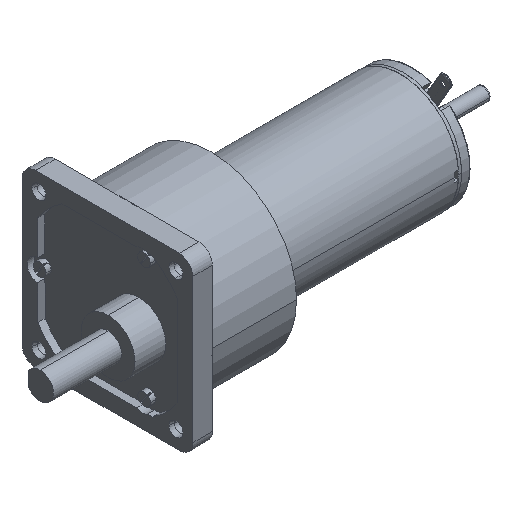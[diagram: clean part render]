
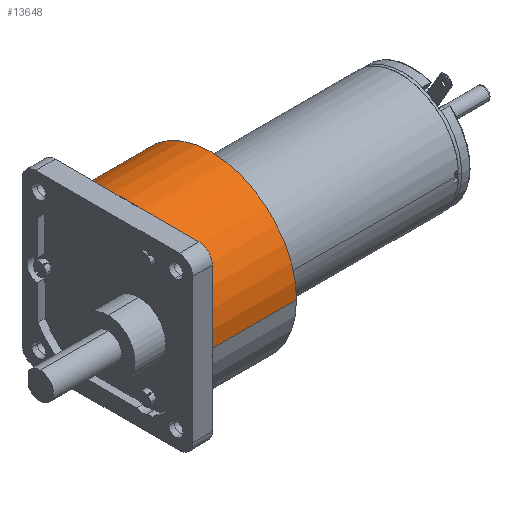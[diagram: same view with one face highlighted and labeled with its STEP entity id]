
A CAD part, isometric view. The second image highlights one B-rep face of the part: STEP entity #13648.
In plain terms, the highlighted cylindrical face has radius 19 mm (diameter 38 mm), a partial arc.
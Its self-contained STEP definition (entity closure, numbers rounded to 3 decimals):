
#113 = DIRECTION ( 'NONE',  ( 1., 0., 0. ) ) ;
#560 = ORIENTED_EDGE ( 'NONE', *, *, #8260, .F. ) ;
#575 = EDGE_LOOP ( 'NONE', ( #560, #3230, #15703, #2563, #10080 ) ) ;
#682 = DIRECTION ( 'NONE',  ( 0., 0., -1. ) ) ;
#1691 = VECTOR ( 'NONE', #12668, 1000. ) ;
#1776 = DIRECTION ( 'NONE',  ( 1., 0., 0. ) ) ;
#2563 = ORIENTED_EDGE ( 'NONE', *, *, #4088, .T. ) ;
#2774 = AXIS2_PLACEMENT_3D ( 'NONE', #8856, #2787, #10458 ) ;
#2787 = DIRECTION ( 'NONE',  ( 1., 0., 0. ) ) ;
#3059 = VERTEX_POINT ( 'NONE', #6895 ) ;
#3230 = ORIENTED_EDGE ( 'NONE', *, *, #9471, .T. ) ;
#3492 = VERTEX_POINT ( 'NONE', #9532 ) ;
#3505 = CARTESIAN_POINT ( 'NONE',  ( 4.4, 0., 7. ) ) ;
#4088 = EDGE_CURVE ( 'NONE', #4488, #3492, #17550, .T. ) ;
#4488 = VERTEX_POINT ( 'NONE', #16040 ) ;
#4988 = DIRECTION ( 'NONE',  ( 0., 0., -1. ) ) ;
#5008 = CYLINDRICAL_SURFACE ( 'NONE', #2774, 19. ) ;
#6331 = CARTESIAN_POINT ( 'NONE',  ( 4.4, 0., 26. ) ) ;
#6387 = AXIS2_PLACEMENT_3D ( 'NONE', #3505, #14169, #4988 ) ;
#6756 = CIRCLE ( 'NONE', #8004, 19. ) ;
#6895 = CARTESIAN_POINT ( 'NONE',  ( 4.4, 0., 26. ) ) ;
#7538 = CIRCLE ( 'NONE', #11459, 19. ) ;
#8004 = AXIS2_PLACEMENT_3D ( 'NONE', #9264, #113, #10798 ) ;
#8260 = EDGE_CURVE ( 'NONE', #3059, #11685, #13813, .T. ) ;
#8856 = CARTESIAN_POINT ( 'NONE',  ( 4.4, 0., 7. ) ) ;
#9264 = CARTESIAN_POINT ( 'NONE',  ( 23.1, 0., 7. ) ) ;
#9471 = EDGE_CURVE ( 'NONE', #3059, #13461, #7538, .T. ) ;
#9532 = CARTESIAN_POINT ( 'NONE',  ( 23.1, 0., -12. ) ) ;
#9569 = CARTESIAN_POINT ( 'NONE',  ( 4.4, 0., -12. ) ) ;
#9829 = DIRECTION ( 'NONE',  ( 1., 0., 0. ) ) ;
#9857 = CARTESIAN_POINT ( 'NONE',  ( 4.4, -19., 7. ) ) ;
#10080 = ORIENTED_EDGE ( 'NONE', *, *, #13245, .F. ) ;
#10458 = DIRECTION ( 'NONE',  ( 0., 0., -1. ) ) ;
#10533 = FACE_OUTER_BOUND ( 'NONE', #575, .T. ) ;
#10798 = DIRECTION ( 'NONE',  ( 0., 0., -1. ) ) ;
#11024 = CIRCLE ( 'NONE', #6387, 19. ) ;
#11459 = AXIS2_PLACEMENT_3D ( 'NONE', #19077, #9829, #682 ) ;
#11685 = VERTEX_POINT ( 'NONE', #16163 ) ;
#12668 = DIRECTION ( 'NONE',  ( 1., 0., 0. ) ) ;
#13245 = EDGE_CURVE ( 'NONE', #11685, #3492, #6756, .T. ) ;
#13363 = VECTOR ( 'NONE', #1776, 1000. ) ;
#13461 = VERTEX_POINT ( 'NONE', #9857 ) ;
#13648 = ADVANCED_FACE ( 'NONE', ( #10533 ), #5008, .T. ) ;
#13813 = LINE ( 'NONE', #6331, #13363 ) ;
#14169 = DIRECTION ( 'NONE',  ( 1., 0., 0. ) ) ;
#15703 = ORIENTED_EDGE ( 'NONE', *, *, #16699, .T. ) ;
#16040 = CARTESIAN_POINT ( 'NONE',  ( 4.4, 0., -12. ) ) ;
#16163 = CARTESIAN_POINT ( 'NONE',  ( 23.1, 0., 26. ) ) ;
#16699 = EDGE_CURVE ( 'NONE', #13461, #4488, #11024, .T. ) ;
#17550 = LINE ( 'NONE', #9569, #1691 ) ;
#19077 = CARTESIAN_POINT ( 'NONE',  ( 4.4, 0., 7. ) ) ;
